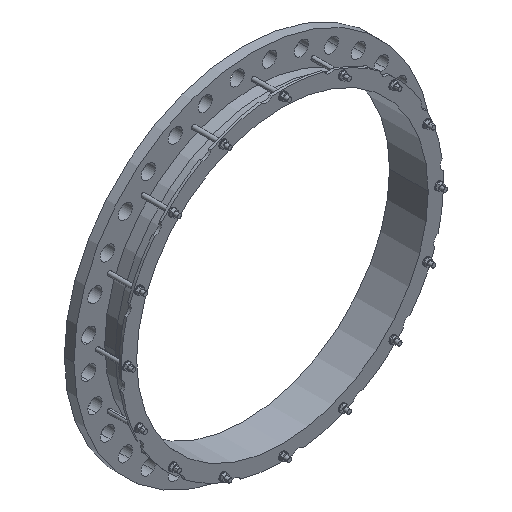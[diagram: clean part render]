
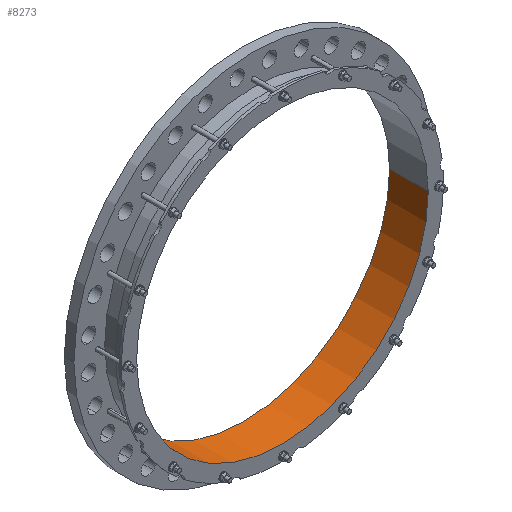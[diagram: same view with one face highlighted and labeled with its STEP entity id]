
A CAD part, isometric view. The second image highlights one B-rep face of the part: STEP entity #8273.
In plain terms, the highlighted cylindrical face has radius 577 mm (diameter 1154 mm), a partial arc.
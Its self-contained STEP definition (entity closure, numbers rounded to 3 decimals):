
#7=CARTESIAN_POINT('',(0.,38.,0.));
#8=DIRECTION('',(0.,1.,0.));
#9=DIRECTION('',(1.,0.,0.));
#10=AXIS2_PLACEMENT_3D('',#7,#8,#9);
#3309=CARTESIAN_POINT('',(0.,-115.,0.));
#3310=DIRECTION('',(0.,1.,0.));
#3311=DIRECTION('',(1.,0.,0.));
#3312=AXIS2_PLACEMENT_3D('',#3309,#3310,#3311);
#3314=DIRECTION('',(0.,1.,0.));
#3315=VECTOR('',#3314,153.);
#3316=CARTESIAN_POINT('',(577.,-115.,0.));
#3317=LINE('',#3316,#3315);
#3318=DIRECTION('',(0.,1.,0.));
#3319=VECTOR('',#3318,153.);
#3320=CARTESIAN_POINT('',(-577.,-115.,0.));
#3321=LINE('',#3320,#3319);
#5702=CARTESIAN_POINT('',(577.,-115.,0.));
#5703=CARTESIAN_POINT('',(577.,38.,0.));
#5704=VERTEX_POINT('',#5702);
#5705=VERTEX_POINT('',#5703);
#5710=CARTESIAN_POINT('',(-577.,-115.,0.));
#5711=CARTESIAN_POINT('',(-577.,38.,0.));
#5712=VERTEX_POINT('',#5710);
#5713=VERTEX_POINT('',#5711);
#8260=CARTESIAN_POINT('',(0.,-122.65,0.));
#8261=DIRECTION('',(0.,1.,0.));
#8262=DIRECTION('',(-1.,0.,0.));
#8263=AXIS2_PLACEMENT_3D('',#8260,#8261,#8262);
#8264=CYLINDRICAL_SURFACE('',#8263,577.);
#8266=ORIENTED_EDGE('',*,*,#8265,.F.);
#8267=ORIENTED_EDGE('',*,*,#8253,.T.);
#8269=ORIENTED_EDGE('',*,*,#8268,.T.);
#8270=ORIENTED_EDGE('',*,*,#6917,.F.);
#8271=EDGE_LOOP('',(#8266,#8267,#8269,#8270));
#8272=FACE_OUTER_BOUND('',#8271,.F.);
#8273=ADVANCED_FACE('',(#8272),#8264,.F.);
#11=CIRCLE('',#10,577.);
#3313=CIRCLE('',#3312,577.);
#6917=EDGE_CURVE('',#5705,#5713,#11,.T.);
#8253=EDGE_CURVE('',#5704,#5712,#3313,.T.);
#8265=EDGE_CURVE('',#5704,#5705,#3317,.T.);
#8268=EDGE_CURVE('',#5712,#5713,#3321,.T.);
